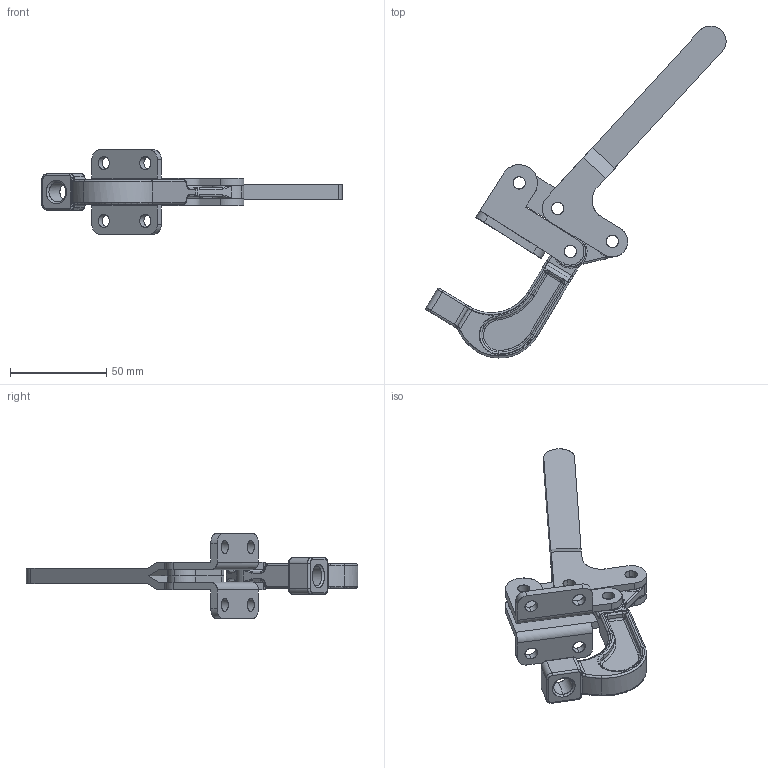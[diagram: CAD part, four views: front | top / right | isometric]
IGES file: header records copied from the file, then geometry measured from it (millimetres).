
Start section: Comment
Global section: file name: 80379.igs; native system:  By Spatial Corp.; preprocessor: XPlus PS/IGES 3.0; author: Author; organization: Title; date: 20050217.133758; units: inch
Bounding box: 155.83 x 172.34 x 44 mm (x, y, z)
Surface area: 31075.4 mm2 (no closed solid volume)
Topology: 0 solids, 0 shells, 285 faces, 1400 edges, 1386 vertices
Faces by surface type: revolution 190, extrusion 71, bspline 24
